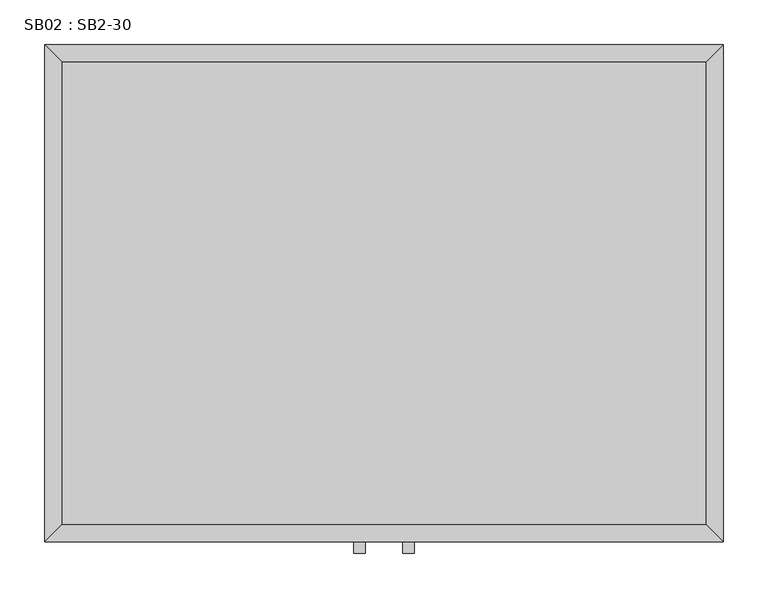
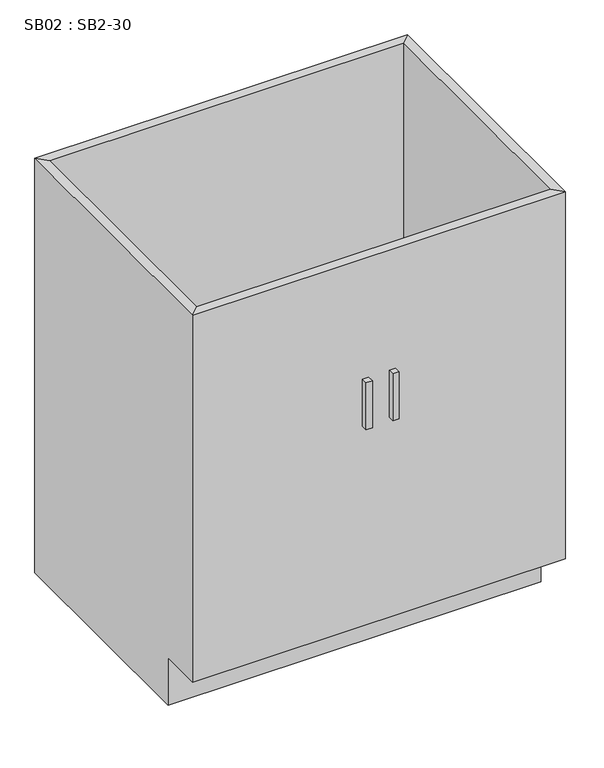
"""IFC4 building model written with IfcOpenShell, lengths in millimetres: furniture geometry, SB02 : SB2-30."""

from ifc_helpers import new_model, si_unit, frame, origin, place, context, project, spatial, polyline, outline, extrude, faceted_brep, source, transform, mapped, element, save


def sb02_sb2_30_8c8b874e(model_context):
    return source(origin(), model_context, "Body", "SolidModel", [
        extrude(outline(polyline([(-2.2622951, -571.5), (-14.9622951, -571.5), (-14.9622951, -558.8), (-2.2622951, -558.8), (-2.2622951, -571.5)])), frame((0.0, 0.0, 533.8), z_axis=(0.0, 0.0, 1.0), x_axis=(1.0, 0.0, 0.0)), (0.0, 0.0, 1.0), 101.6),
        extrude(outline(polyline([(52.4377049, -571.5), (39.7377049, -571.5), (39.7377049, -558.8), (52.4377049, -558.8), (52.4377049, -571.5)])), frame((0.0, 0.0, 533.8), z_axis=(0.0, 0.0, 1.0), x_axis=(1.0, 0.0, 0.0)), (0.0, 0.0, 1.0), 101.6),
        faceted_brep([(-343.2122951, -471.8, 102.0), (380.6877049, -471.8, 102.0), (380.6877049, -19.05, 102.0), (-343.2122951, -19.05, 102.0), (399.7377049, 0.0, 0.0), (399.7377049, -471.8, 0.0), (-362.2622951, -471.8, 0.0), (-362.2622951, 0.0, 0.0), (-362.2622951, 0.0, 895.0), (399.7377049, 0.0, 895.0), (-362.2622951, -471.8, 102.0), (-362.2622951, -558.8, 102.0), (-362.2622951, -558.8, 895.0), (399.7377049, -471.8, 102.0), (399.7377049, -558.8, 895.0), (399.7377049, -558.8, 102.0), (380.6877049, -539.75, 895.0), (380.6877049, -539.75, 102.0), (-343.2122951, -539.75, 102.0), (-343.2122951, -539.75, 895.0), (-343.2122951, -19.05, 895.0), (380.6877049, -19.05, 895.0)], [[[0, 1, 2, 3]], [[4, 5, 6, 7]], [[4, 7, 8, 9]], [[8, 7, 6, 10, 11, 12]], [[6, 5, 13, 1, 0, 10]], [[5, 4, 9, 14, 15, 13]], [[16, 17, 18, 19]], [[16, 19, 12, 14]], [[14, 12, 11, 15]], [[18, 17, 15, 11]], [[19, 18, 0, 3, 20]], [[12, 19, 20, 8]], [[18, 11, 10, 0]], [[20, 3, 2, 21]], [[8, 20, 21, 9]], [[17, 16, 21, 2, 1]], [[16, 14, 9, 21]], [[15, 17, 1, 13]]]),
        extrude(outline(polyline([(380.6877049, -19.05), (380.6877049, -539.75), (-343.2122951, -539.75), (-343.2122951, -19.05), (380.6877049, -19.05)])), frame((0.0, 0.0, 102.0), z_axis=(0.0, 0.0, 1.0), x_axis=(1.0, 0.0, 0.0)), (0.0, 0.0, 1.0), 19.05),
    ])


if __name__ == "__main__":
    model = new_model("IFC4")
    model_context = context("Model", 3, world=origin())
    ifc_project = project(units=[si_unit("LENGTHUNIT", "METRE", prefix="MILLI")], contexts=[model_context])
    site = spatial("IfcSite", under=ifc_project)
    building = spatial("IfcBuilding", under=site)
    placement = place(None, origin())
    sb02_sb2_30_shape = sb02_sb2_30_8c8b874e(model_context)
    element("IfcFurniture", 1, ObjectType="SB02 : SB2-30", at=placement, inside=building, context=model_context, shape_type="MappedRepresentation", body=[
        mapped(sb02_sb2_30_shape, transform((0.0, 0.0, 0.0), x_axis=(1.0, 0.0, 0.0), y_axis=(0.0, 1.0, 0.0), z_axis=(0.0, 0.0, 1.0))),
    ])
    save(model, "model.ifc")
